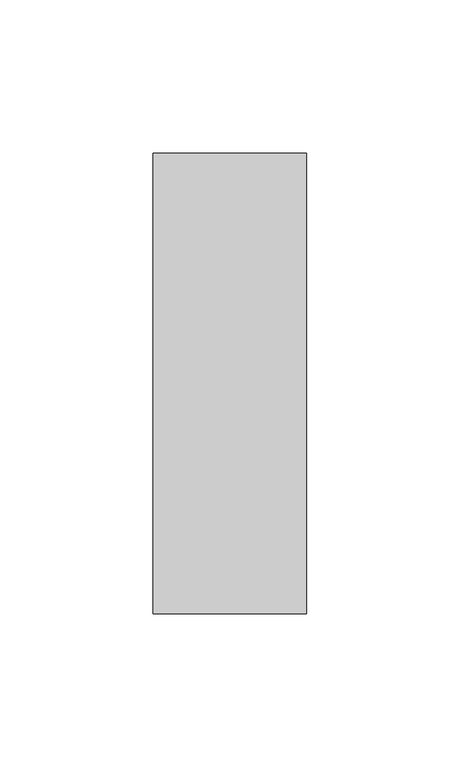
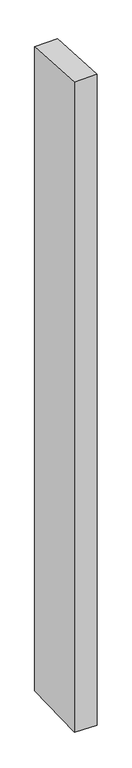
"""IFC4 building model written with IfcOpenShell, lengths in millimetres: member geometry, Прямоугольный импост : 50 x 150 мм."""

from ifc_helpers import new_model, si_unit, origin, place, context, project, spatial, faceted_brep, source, transform, mapped, element, save


def member_cd04f109(model_context):
    return source(origin(), model_context, "Body", "Brep", [
        faceted_brep([(-25.0, 75.0, -5.1747044), (25.0, 75.0, -3.9171969), (25.0, 75.0, -1495.5053928), (-25.0, 75.0, -1494.5150078), (-25.0, -75.0, 3.9171969), (-25.0, -75.0, -1499.2788361), (25.0, -75.0, 5.1747044), (25.0, -75.0, -1500.2692212)], [[[0, 1, 2, 3]], [[4, 0, 3, 5]], [[6, 4, 5, 7]], [[1, 6, 7, 2]], [[1, 0, 4, 6]], [[2, 7, 5, 3]]]),
    ])


if __name__ == "__main__":
    model = new_model("IFC4")
    model_context = context("Model", 3, world=origin())
    ifc_project = project(units=[si_unit("LENGTHUNIT", "METRE", prefix="MILLI")], contexts=[model_context])
    site = spatial("IfcSite", under=ifc_project)
    building = spatial("IfcBuilding", under=site)
    placement = place(None, origin())
    member_shape = member_cd04f109(model_context)
    element("IfcMember", 1, ObjectType="Прямоугольный импост : 50 x 150 мм", at=placement, inside=building, context=model_context, shape_type="MappedRepresentation", body=[
        mapped(member_shape, transform((0.0, 0.0, 0.0), x_axis=(1.0, 0.0, 0.0), y_axis=(0.0, 1.0, 0.0), z_axis=(0.0, 0.0, 1.0))),
    ])
    save(model, "model.ifc")
